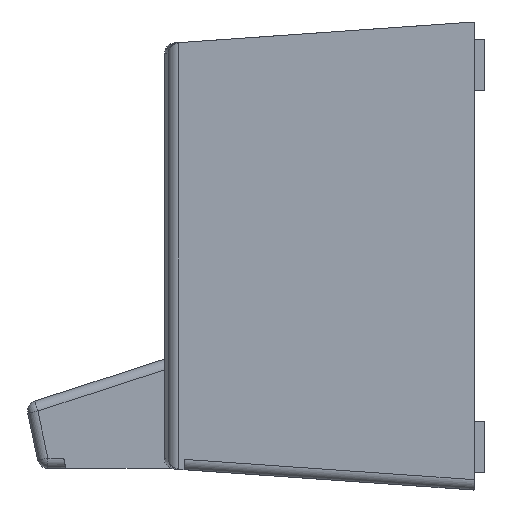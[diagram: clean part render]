
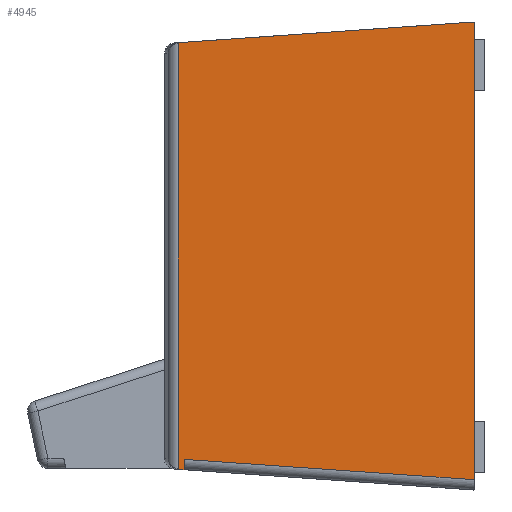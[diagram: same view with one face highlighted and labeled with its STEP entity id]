
A CAD part, left-side view. The second image highlights one B-rep face of the part: STEP entity #4945.
In plain terms, the highlighted planar face has unit normal (-1, 0, 0).
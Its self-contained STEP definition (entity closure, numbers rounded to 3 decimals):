
#41 = DIRECTION ( 'NONE',  ( 0., 0.998, -0.07 ) ) ;
#146 = CARTESIAN_POINT ( 'NONE',  ( -860., 0., 739.838 ) ) ;
#153 = CARTESIAN_POINT ( 'NONE',  ( -860., 571.007, -413.523 ) ) ;
#171 = DIRECTION ( 'NONE',  ( 0., 0., -1. ) ) ;
#177 = PLANE ( 'NONE',  #2089 ) ;
#214 = CARTESIAN_POINT ( 'NONE',  ( -860., 572.497, 413.379 ) ) ;
#293 = EDGE_CURVE ( 'NONE', #2908, #2269, #1206, .T. ) ;
#330 = EDGE_CURVE ( 'NONE', #3671, #2873, #678, .T. ) ;
#573 = VERTEX_POINT ( 'NONE', #6184 ) ;
#678 = LINE ( 'NONE', #1586, #5153 ) ;
#683 = DIRECTION ( 'NONE',  ( 0., 0., -1. ) ) ;
#699 = LINE ( 'NONE', #2612, #4189 ) ;
#840 = ORIENTED_EDGE ( 'NONE', *, *, #330, .T. ) ;
#1156 = CARTESIAN_POINT ( 'NONE',  ( -860., 561.967, -414.156 ) ) ;
#1184 = CARTESIAN_POINT ( 'NONE',  ( -860., 571.007, 413.523 ) ) ;
#1206 = LINE ( 'NONE', #1234, #1645 ) ;
#1234 = CARTESIAN_POINT ( 'NONE',  ( -860., 83.037, -447.646 ) ) ;
#1327 = B_SPLINE_CURVE_WITH_KNOTS ( 'NONE', 3,
 ( #2921, #4375, #4347, #153 ),
 .UNSPECIFIED., .F., .F.,
 ( 4, 4 ),
 ( 0., 1. ),
 .UNSPECIFIED. ) ;
#1331 = ORIENTED_EDGE ( 'NONE', *, *, #293, .F. ) ;
#1349 = B_SPLINE_CURVE_WITH_KNOTS ( 'NONE', 3,
 ( #1184, #4555, #214, #3553 ),
 .UNSPECIFIED., .F., .F.,
 ( 4, 4 ),
 ( 0., 1. ),
 .UNSPECIFIED. ) ;
#1416 = DIRECTION ( 'NONE',  ( 0., 0.998, 0.07 ) ) ;
#1477 = EDGE_CURVE ( 'NONE', #573, #3671, #1349, .T. ) ;
#1550 = EDGE_CURVE ( 'NONE', #3877, #5041, #2632, .T. ) ;
#1586 = CARTESIAN_POINT ( 'NONE',  ( -860., 573.234, 739.838 ) ) ;
#1623 = CARTESIAN_POINT ( 'NONE',  ( -860., 0.024, -433.402 ) ) ;
#1645 = VECTOR ( 'NONE', #1416, 1000. ) ;
#1909 = ORIENTED_EDGE ( 'NONE', *, *, #2624, .F. ) ;
#1922 = CARTESIAN_POINT ( 'NONE',  ( -860., 571.007, -413.523 ) ) ;
#2033 = ORIENTED_EDGE ( 'NONE', *, *, #2785, .T. ) ;
#2089 = AXIS2_PLACEMENT_3D ( 'NONE', #146, #5796, #5887 ) ;
#2269 = VERTEX_POINT ( 'NONE', #1922 ) ;
#2332 = ORIENTED_EDGE ( 'NONE', *, *, #1477, .T. ) ;
#2406 = CARTESIAN_POINT ( 'NONE',  ( -860., 573.234, 413.247 ) ) ;
#2408 = EDGE_CURVE ( 'NONE', #3877, #2908, #699, .T. ) ;
#2509 = DIRECTION ( 'NONE',  ( 0., 0., 1. ) ) ;
#2530 = ORIENTED_EDGE ( 'NONE', *, *, #4061, .F. ) ;
#2597 = CARTESIAN_POINT ( 'NONE',  ( -860., 0.024, 1015.277 ) ) ;
#2612 = CARTESIAN_POINT ( 'NONE',  ( -860., 561.967, 739.838 ) ) ;
#2624 = EDGE_CURVE ( 'NONE', #5350, #3700, #3791, .T. ) ;
#2632 = LINE ( 'NONE', #4083, #3911 ) ;
#2785 = EDGE_CURVE ( 'NONE', #2873, #2269, #1327, .T. ) ;
#2873 = VERTEX_POINT ( 'NONE', #4497 ) ;
#2908 = VERTEX_POINT ( 'NONE', #1156 ) ;
#2921 = CARTESIAN_POINT ( 'NONE',  ( -860., 573.234, -413.247 ) ) ;
#3553 = CARTESIAN_POINT ( 'NONE',  ( -860., 573.234, 413.247 ) ) ;
#3581 = LINE ( 'NONE', #2597, #5889 ) ;
#3667 = ORIENTED_EDGE ( 'NONE', *, *, #2408, .F. ) ;
#3671 = VERTEX_POINT ( 'NONE', #2406 ) ;
#3690 = EDGE_CURVE ( 'NONE', #5350, #573, #5286, .T. ) ;
#3700 = VERTEX_POINT ( 'NONE', #4241 ) ;
#3791 = CIRCLE ( 'NONE', #4296, 20. ) ;
#3877 = VERTEX_POINT ( 'NONE', #5763 ) ;
#3905 = ORIENTED_EDGE ( 'NONE', *, *, #3690, .T. ) ;
#3911 = VECTOR ( 'NONE', #5515, 1000. ) ;
#3965 = DIRECTION ( 'NONE',  ( 1., 0., 0. ) ) ;
#4061 = EDGE_CURVE ( 'NONE', #3700, #5041, #3581, .T. ) ;
#4083 = CARTESIAN_POINT ( 'NONE',  ( -860., -1.371, -433.499 ) ) ;
#4095 = EDGE_LOOP ( 'NONE', ( #840, #2033, #1331, #3667, #4433, #2530, #1909, #3905, #2332 ) ) ;
#4189 = VECTOR ( 'NONE', #5552, 1000. ) ;
#4241 = CARTESIAN_POINT ( 'NONE',  ( -860., 0.024, 450.047 ) ) ;
#4296 = AXIS2_PLACEMENT_3D ( 'NONE', #5359, #3965, #2509 ) ;
#4347 = CARTESIAN_POINT ( 'NONE',  ( -860., 571.754, -413.471 ) ) ;
#4375 = CARTESIAN_POINT ( 'NONE',  ( -860., 572.497, -413.379 ) ) ;
#4431 = FACE_OUTER_BOUND ( 'NONE', #4095, .T. ) ;
#4433 = ORIENTED_EDGE ( 'NONE', *, *, #1550, .T. ) ;
#4497 = CARTESIAN_POINT ( 'NONE',  ( -860., 573.234, -413.247 ) ) ;
#4555 = CARTESIAN_POINT ( 'NONE',  ( -860., 571.754, 413.471 ) ) ;
#4945 = ADVANCED_FACE ( 'NONE', ( #4431 ), #177, .F. ) ;
#5041 = VERTEX_POINT ( 'NONE', #1623 ) ;
#5153 = VECTOR ( 'NONE', #171, 1000. ) ;
#5286 = LINE ( 'NONE', #5785, #5464 ) ;
#5350 = VERTEX_POINT ( 'NONE', #5563 ) ;
#5359 = CARTESIAN_POINT ( 'NONE',  ( -860., 20.024, 450.047 ) ) ;
#5464 = VECTOR ( 'NONE', #41, 1000. ) ;
#5515 = DIRECTION ( 'NONE',  ( 0., -0.998, -0.07 ) ) ;
#5552 = DIRECTION ( 'NONE',  ( 0., 0., -1. ) ) ;
#5563 = CARTESIAN_POINT ( 'NONE',  ( -860., 0.313, 453.43 ) ) ;
#5763 = CARTESIAN_POINT ( 'NONE',  ( -860., 561.967, -394.107 ) ) ;
#5785 = CARTESIAN_POINT ( 'NONE',  ( -860., -19.929, 454.846 ) ) ;
#5796 = DIRECTION ( 'NONE',  ( 1., 0., 0. ) ) ;
#5887 = DIRECTION ( 'NONE',  ( 0., 1., 0. ) ) ;
#5889 = VECTOR ( 'NONE', #683, 1000. ) ;
#6184 = CARTESIAN_POINT ( 'NONE',  ( -860., 571.007, 413.523 ) ) ;
